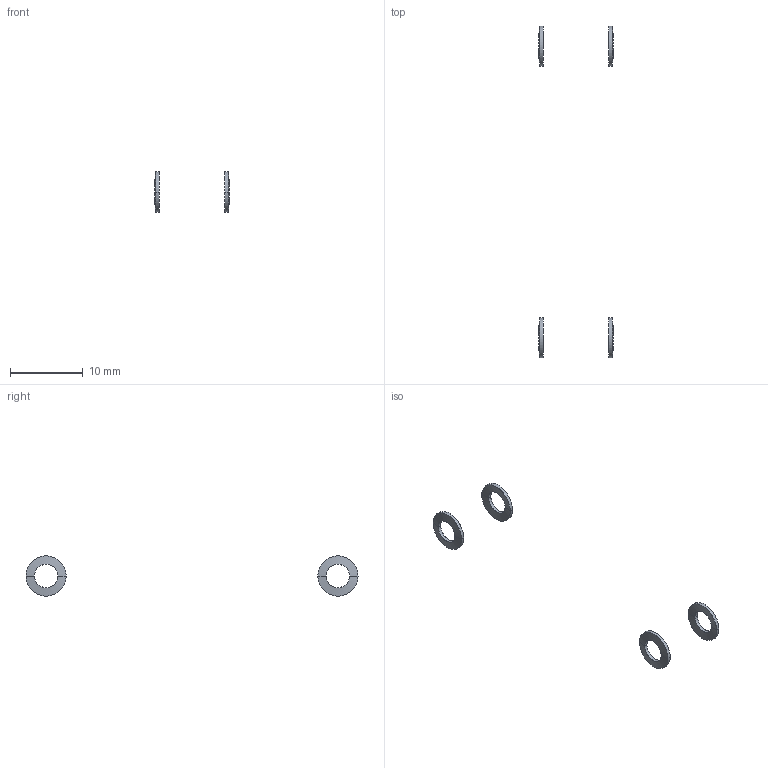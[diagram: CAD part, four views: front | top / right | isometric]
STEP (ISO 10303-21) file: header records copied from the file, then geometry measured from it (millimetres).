
FILE_DESCRIPTION(/* description */ (''),/* implementation_level */ '2;1');
FILE_NAME(/* name */ '9.electronics#9.4#GTS3',/* time_stamp */ '2014-12-01T20:18:50+01:00',/* author */ (''),/* organization */ (''),/* preprocessor_version */ 'ST-DEVELOPER v14',/* originating_system */ '',/* authorisation */ '');
FILE_SCHEMA (('AUTOMOTIVE_DESIGN'));
Length unit declared in the file: millimetre
Products named in the file (2): Document; washer Schnorr-like, lock, M3
Assembly tree (2 placements, depth 2):
  Document
    washer Schnorr-like, lock, M3  x2
Bounding box: 10.2 x 45.5 x 5.49 mm (x, y, z)
Surface area: 176.1 mm2 (no closed solid volume)
Topology: 0 solids, 32 shells, 32 faces, 128 edges, 128 vertices
Faces by surface type: bspline 32
Entity records: 2175 total; most frequent: CARTESIAN_POINT 1061, B_SPLINE_CURVE_WITH_KNOTS 144, ORIENTED_EDGE 96, PCURVE 96, DEFINITIONAL_REPRESENTATION 96, SURFACE_CURVE 96, EDGE_CURVE 96, VERTEX_POINT 96
